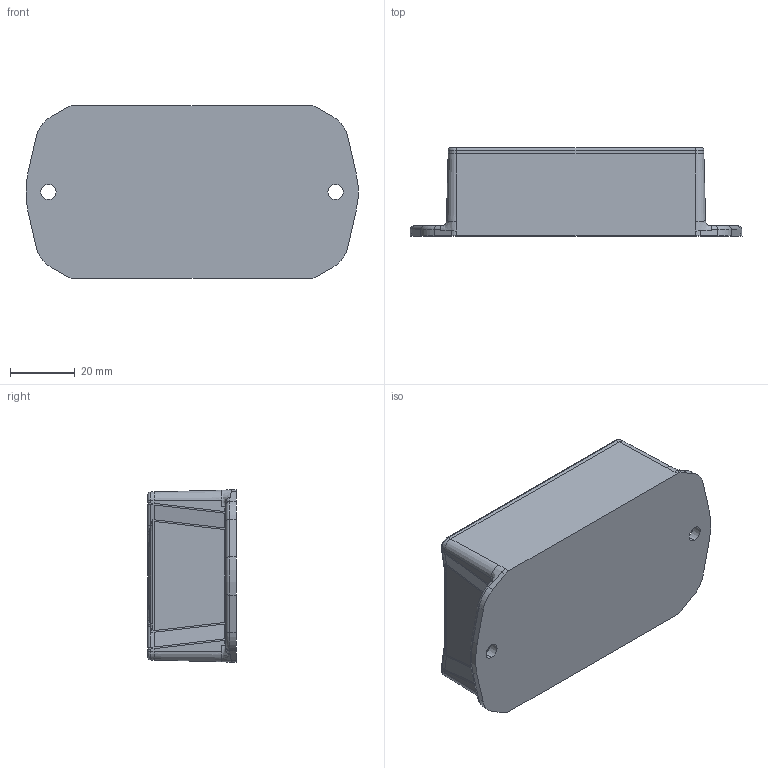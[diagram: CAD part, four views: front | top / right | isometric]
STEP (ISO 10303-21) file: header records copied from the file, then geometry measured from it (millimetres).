
FILE_DESCRIPTION (( 'STEP AP214' ), '1' );
FILE_NAME ('BT-2310MB ASS''Y.STEP', '2010-07-15T12:26:16', ( '' ), ( '' ), 'SwSTEP 2.0', 'SolidWorks 2010', '' );
FILE_SCHEMA (( 'AUTOMOTIVE_DESIGN' ));
Length unit declared in the file: inch
Products named in the file (6): B_-23C_BT-23C; B_-23xxB_BT-2310BMB; SCREWS-LP-BR_SCREWS-LP-BR; BT-2310BMB-PCB; SCREWS-MBR; BT-2310MB ASS''Y
Assembly tree (11 placements, depth 2):
  BT-2310MB ASS''Y
    SCREWS-MBR  x4
    B_-23C_BT-23C
    B_-23xxB_BT-2310BMB
    SCREWS-LP-BR_SCREWS-LP-BR  x4
    BT-2310BMB-PCB
Bounding box: 102.78 x 27.3 x 53.4 mm (x, y, z)
Volume: 40564.3 mm3; surface area: 42358.4 mm2
Topology: 11 solids, 11 shells, 838 faces, 2281 edges, 1482 vertices
Faces by surface type: cylinder 351, plane 289, cone 98, bspline 58, torus 26, sphere 16
Entity records: 27007 total; most frequent: CARTESIAN_POINT 13555, ORIENTED_EDGE 2900, DIRECTION 2676, EDGE_CURVE 1450, AXIS2_PLACEMENT_3D 995, VERTEX_POINT 942, LINE 686, VECTOR 686
